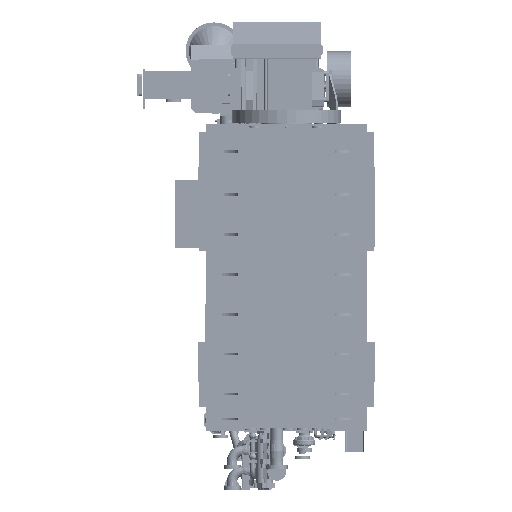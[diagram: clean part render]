
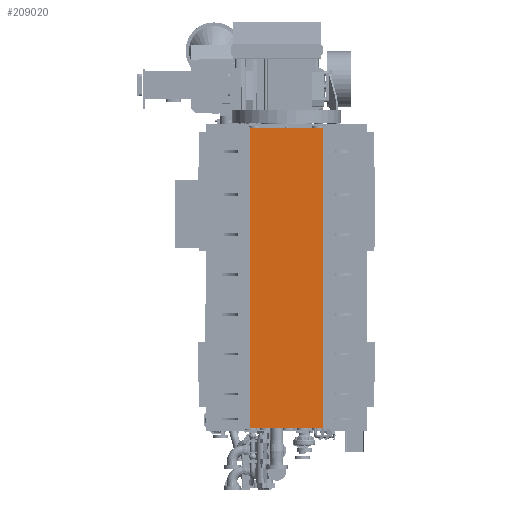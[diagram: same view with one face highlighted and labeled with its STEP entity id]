
A CAD part, front view. The second image highlights one B-rep face of the part: STEP entity #209020.
In plain terms, the highlighted planar face has unit normal (0, -1, 0).
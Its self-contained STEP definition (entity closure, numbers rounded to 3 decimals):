
#205633=DIRECTION('',(0.,0.,1.));
#205634=VECTOR('',#205633,3990.);
#205635=CARTESIAN_POINT('',(-490.,-1372.,-3368.));
#205636=LINE('',#205635,#205634);
#205637=DIRECTION('',(0.,0.,1.));
#205638=VECTOR('',#205637,3990.);
#205639=CARTESIAN_POINT('',(490.,-1372.,-3368.));
#205640=LINE('',#205639,#205638);
#206571=DIRECTION('',(1.,0.,0.));
#206572=VECTOR('',#206571,980.);
#206573=CARTESIAN_POINT('',(-490.,-1372.,622.));
#206574=LINE('',#206573,#206572);
#206619=DIRECTION('',(1.,0.,0.));
#206620=VECTOR('',#206619,980.);
#206621=CARTESIAN_POINT('',(-490.,-1372.,-3368.));
#206622=LINE('',#206621,#206620);
#208087=CARTESIAN_POINT('',(-490.,-1372.,622.));
#208088=CARTESIAN_POINT('',(490.,-1372.,622.));
#208089=VERTEX_POINT('',#208087);
#208090=VERTEX_POINT('',#208088);
#208127=CARTESIAN_POINT('',(-490.,-1372.,-3368.));
#208128=VERTEX_POINT('',#208127);
#208129=CARTESIAN_POINT('',(490.,-1372.,-3368.));
#208130=VERTEX_POINT('',#208129);
#209006=CARTESIAN_POINT('',(-490.,-1372.,607.));
#209007=DIRECTION('',(0.,-1.,0.));
#209008=DIRECTION('',(1.,0.,0.));
#209009=AXIS2_PLACEMENT_3D('',#209006,#209007,#209008);
#209010=PLANE('',#209009);
#209012=ORIENTED_EDGE('',*,*,#209011,.F.);
#209014=ORIENTED_EDGE('',*,*,#209013,.F.);
#209015=ORIENTED_EDGE('',*,*,#208991,.T.);
#209017=ORIENTED_EDGE('',*,*,#209016,.T.);
#209018=EDGE_LOOP('',(#209012,#209014,#209015,#209017));
#209019=FACE_OUTER_BOUND('',#209018,.F.);
#209020=ADVANCED_FACE('',(#209019),#209010,.T.);
#208991=EDGE_CURVE('',#208128,#208089,#205636,.T.);
#209011=EDGE_CURVE('',#208130,#208090,#205640,.T.);
#209013=EDGE_CURVE('',#208128,#208130,#206622,.T.);
#209016=EDGE_CURVE('',#208089,#208090,#206574,.T.);
